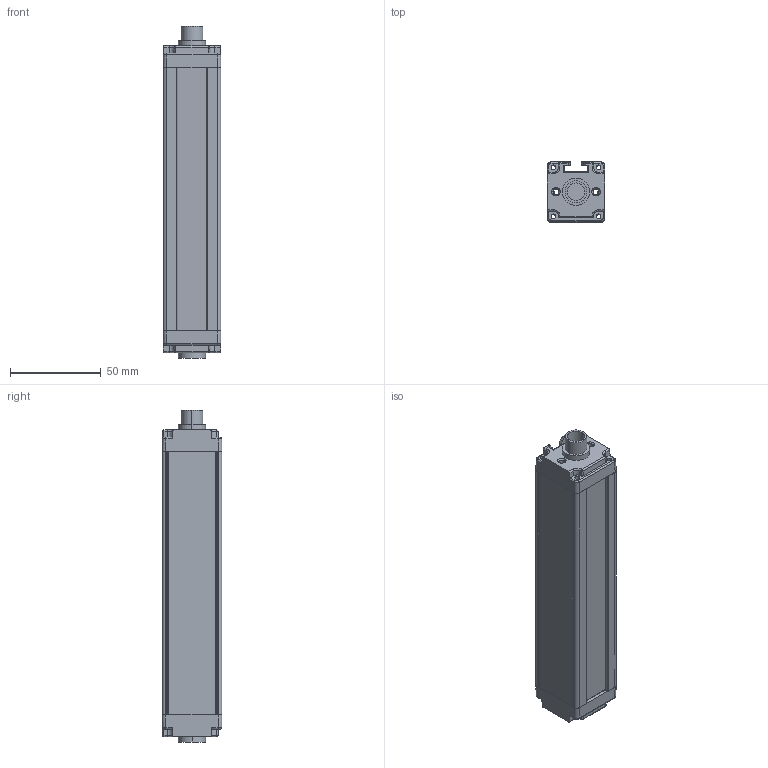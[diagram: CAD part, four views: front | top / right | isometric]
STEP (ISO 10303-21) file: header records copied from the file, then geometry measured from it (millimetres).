
FILE_DESCRIPTION(/* description */ (''),/* implementation_level */ '2;1');
FILE_NAME(/* name */ 'TYG10-12.stp',/* time_stamp */ '2023-08-25T10:14:57+08:00',/* author */ (''),/* organization */ (''),/* preprocessor_version */ 'ST-DEVELOPER v16',/* originating_system */ 'SIEMENS PLM Software NX 11.0',/* authorisation */ '');
FILE_SCHEMA (('AUTOMOTIVE_DESIGN { 1 0 10303 214 3 1 1 1 }'));
Length unit declared in the file: millimetre
Products named in the file (5): YAKELI; B-0823; K-0823; 20230331; TYG10-_stp
Assembly tree (4 placements, depth 2):
  TYG10-_stp
    20230331
    K-0823
    B-0823
    YAKELI
Bounding box: 31.87 x 33.07 x 183 mm (x, y, z)
Volume: 58757.2 mm3; surface area: 63432.1 mm2
Topology: 4 solids, 4 shells, 629 faces, 1887 edges, 1256 vertices
Faces by surface type: plane 346, cylinder 203, cone 36, sphere 16, torus 16, extrusion 8, bspline 4
Entity records: 21871 total; most frequent: CARTESIAN_POINT 4469, ORIENTED_EDGE 3758, DIRECTION 3553, EDGE_CURVE 1879, VERTEX_POINT 1256, AXIS2_PLACEMENT_3D 1188, VECTOR 1177, LINE 1169
